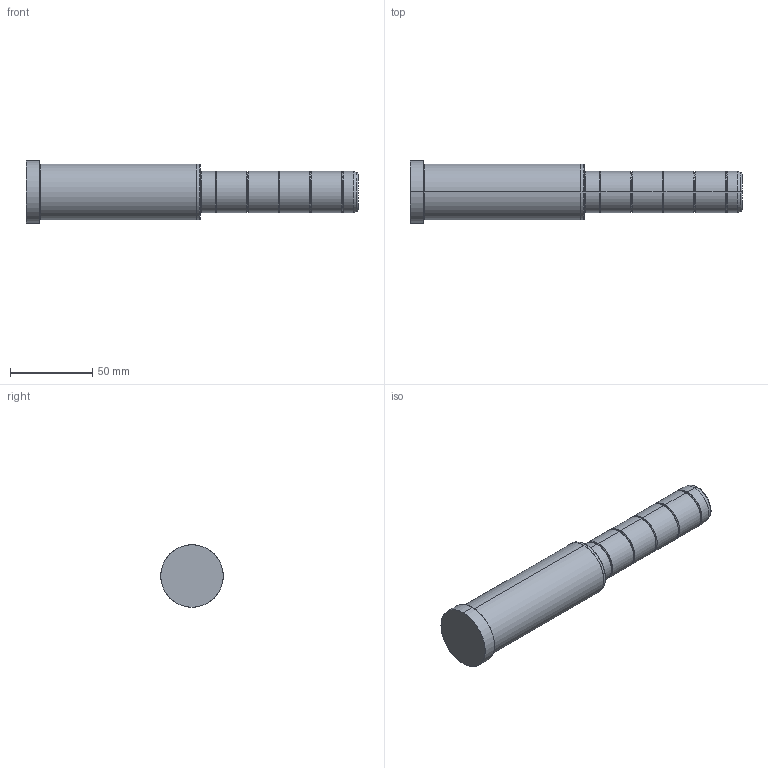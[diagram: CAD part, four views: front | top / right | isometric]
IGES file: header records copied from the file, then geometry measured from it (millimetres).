
Start section: SolidWorks IGES file using analytic representation for surfaces
Global section: file name: C:\Documents and Settings\kalite-mail\Desktop\IGS\D02\25\D02 - 25x106x96.IGS; native system: SolidWorks 2008; preprocessor: SolidWorks 2008; author: kalite-mail; date: 080617.085538; units: millimetre
Bounding box: 202 x 38 x 38 mm (x, y, z)
Surface area: 21321.6 mm2 (no closed solid volume)
Topology: 0 solids, 0 shells, 54 faces, 768 edges, 768 vertices
Faces by surface type: bspline 30, revolution 24
